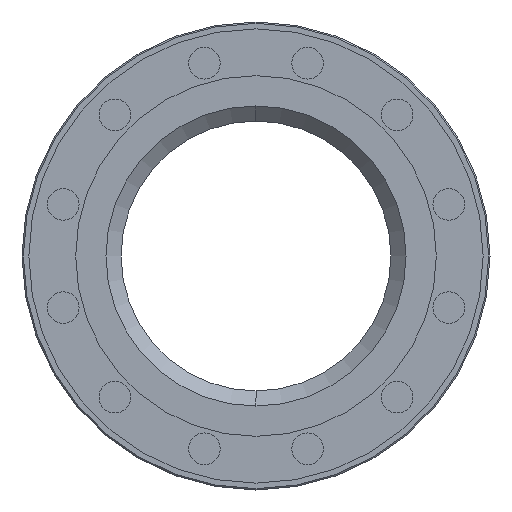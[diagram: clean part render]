
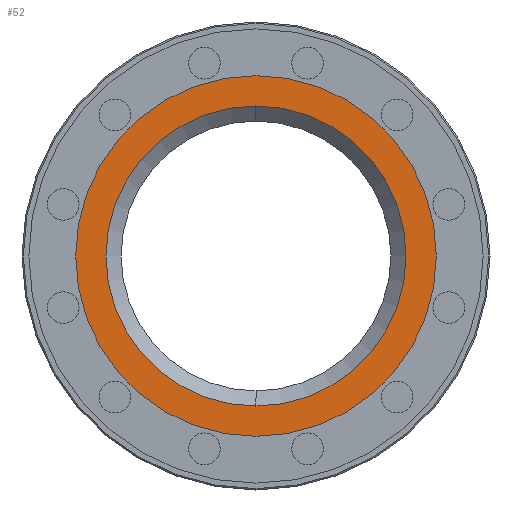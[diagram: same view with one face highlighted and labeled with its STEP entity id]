
A CAD part, left-side view. The second image highlights one B-rep face of the part: STEP entity #52.
In plain terms, the highlighted planar face has unit normal (-1, 0, 0).
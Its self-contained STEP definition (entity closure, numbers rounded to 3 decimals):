
#52=ADVANCED_FACE('',(#345,#346),#344,.T.);
#344=PLANE('',#1742);
#345=FACE_OUTER_BOUND('',#1743,.T.);
#346=FACE_BOUND('',#1744,.T.);
#1739=CARTESIAN_POINT('',(0.,-236.899,-272.));
#1740=DIRECTION('',(-1.,0.,0.));
#1741=DIRECTION('',(0.,0.,1.));
#1742=AXIS2_PLACEMENT_3D('',#1739,#1740,#1741);
#1743=EDGE_LOOP('',(#2886,#2887));
#1744=EDGE_LOOP('',(#2888,#2889));
#2886=ORIENTED_EDGE('',*,*,#3564,.T.);
#2887=ORIENTED_EDGE('',*,*,#3565,.T.);
#2888=ORIENTED_EDGE('',*,*,#3566,.F.);
#2889=ORIENTED_EDGE('',*,*,#3567,.F.);
#3564=EDGE_CURVE('',#4610,#4611,#4612,.T.);
#3565=EDGE_CURVE('',#4611,#4610,#4618,.T.);
#3566=EDGE_CURVE('',#4624,#4625,#4626,.T.);
#3567=EDGE_CURVE('',#4625,#4624,#4632,.T.);
#4610=VERTEX_POINT('',#6623);
#4611=VERTEX_POINT('',#6624);
#4612=CIRCLE('',#6628,131.);
#4618=CIRCLE('',#6632,131.);
#4624=VERTEX_POINT('',#6633);
#4625=VERTEX_POINT('',#6634);
#4626=CIRCLE('',#6638,109.);
#4632=CIRCLE('',#6642,109.);
#6623=CARTESIAN_POINT('',(0.,0.,131.));
#6624=CARTESIAN_POINT('',(0.,0.,-131.));
#6625=CARTESIAN_POINT('',(0.,0.,0.));
#6626=DIRECTION('',(-1.,0.,0.));
#6627=DIRECTION('',(0.,0.,1.));
#6628=AXIS2_PLACEMENT_3D('',#6625,#6626,#6627);
#6629=CARTESIAN_POINT('',(0.,0.,0.));
#6630=DIRECTION('',(-1.,0.,0.));
#6631=DIRECTION('',(0.,0.,1.));
#6632=AXIS2_PLACEMENT_3D('',#6629,#6630,#6631);
#6633=CARTESIAN_POINT('',(0.,0.,-109.));
#6634=CARTESIAN_POINT('',(0.,0.,109.));
#6635=CARTESIAN_POINT('',(0.,0.,0.));
#6636=DIRECTION('',(-1.,0.,0.));
#6637=DIRECTION('',(0.,0.,1.));
#6638=AXIS2_PLACEMENT_3D('',#6635,#6636,#6637);
#6639=CARTESIAN_POINT('',(0.,0.,0.));
#6640=DIRECTION('',(-1.,0.,0.));
#6641=DIRECTION('',(0.,0.,1.));
#6642=AXIS2_PLACEMENT_3D('',#6639,#6640,#6641);
